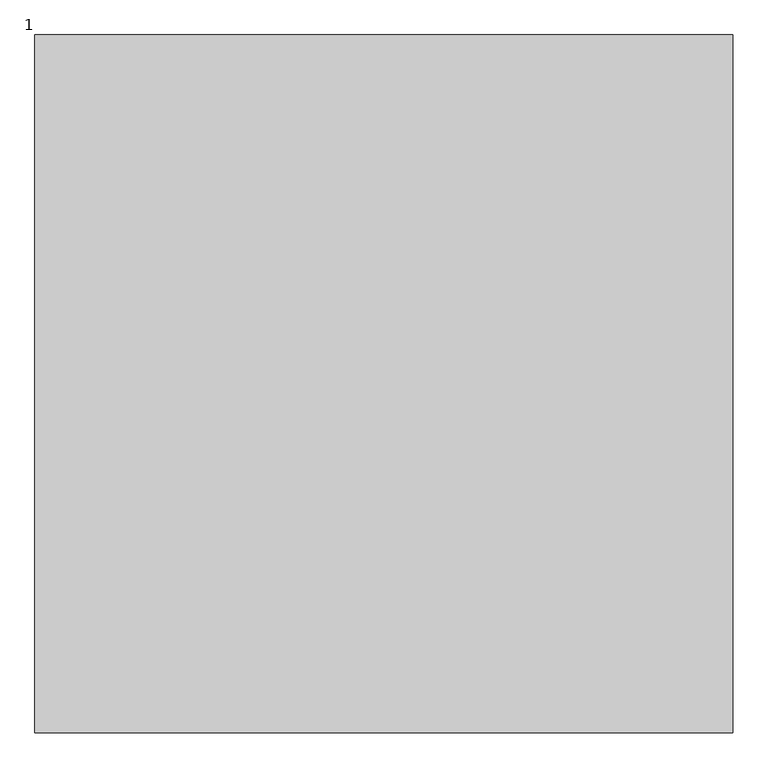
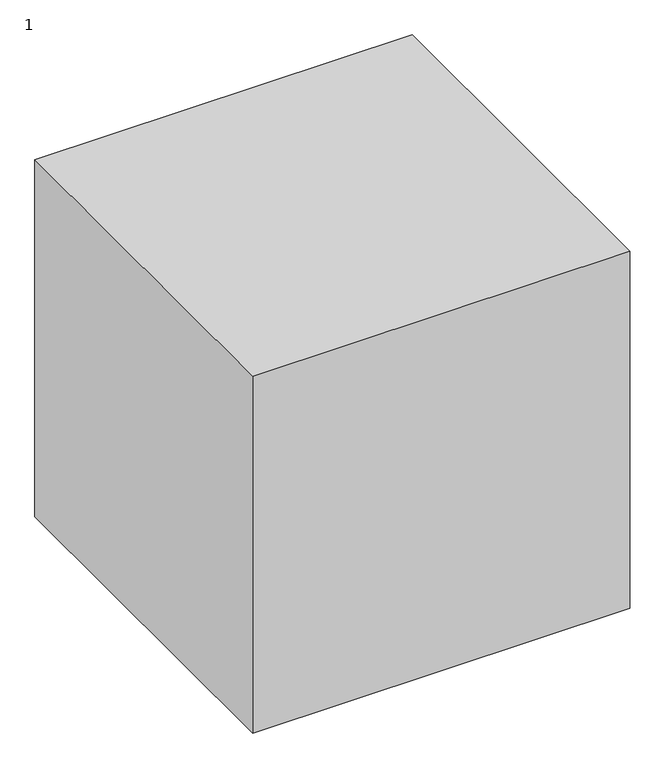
"""IFC4 building model written with IfcOpenShell, lengths in millimetres: proxy geometry, 1222211111 : 1."""

from ifc_helpers import new_model, si_unit, origin, origin_with_axes, place, context, project, spatial, polyline, outline, extrude, source, transform, mapped, element, save


def proxy_1_42d40aa6(model_context):
    return source(origin(), model_context, "Body", "SweptSolid", [
        extrude(outline(polyline([(-14307.9756708, -12664.7705528), (-14307.9756708, -13664.7705528), (-15307.9756708, -13664.7705528), (-15307.9756708, -12664.7705528), (-14307.9756708, -12664.7705528)])), origin_with_axes(), (0.0, 0.0, 1.0), 1000.0),
    ])


if __name__ == "__main__":
    model = new_model("IFC4")
    model_context = context("Model", 3, world=origin())
    ifc_project = project(units=[si_unit("LENGTHUNIT", "METRE", prefix="MILLI")], contexts=[model_context])
    site = spatial("IfcSite", under=ifc_project)
    building = spatial("IfcBuilding", under=site)
    placement = place(None, origin())
    proxy_1_shape = proxy_1_42d40aa6(model_context)
    element("IfcBuildingElementProxy", 1, Name="1222211111 : 1", ObjectType="1222211111 : 1", at=placement, inside=building, context=model_context, shape_type="MappedRepresentation", body=[
        mapped(proxy_1_shape, transform((0.0, 0.0, 0.0), x_axis=(1.0, 0.0, 0.0), y_axis=(0.0, 1.0, 0.0), z_axis=(0.0, 0.0, 1.0))),
    ])
    save(model, "model.ifc")
